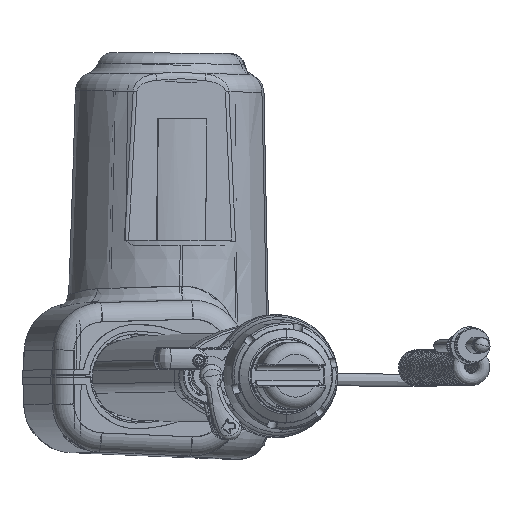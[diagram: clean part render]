
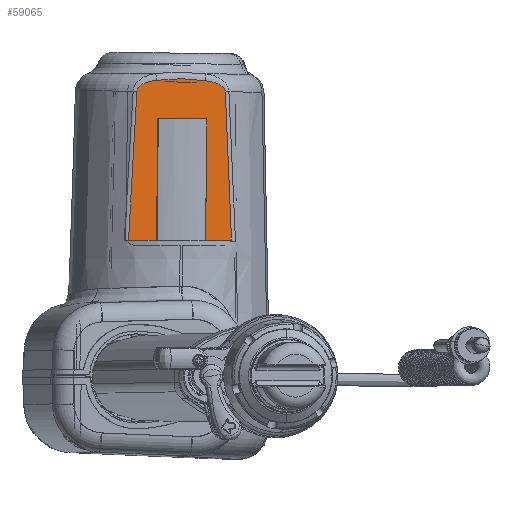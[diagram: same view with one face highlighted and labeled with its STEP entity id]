
A CAD part, top view. The second image highlights one B-rep face of the part: STEP entity #59065.
In plain terms, the highlighted planar face has unit normal (0.116, 0, 0.993).
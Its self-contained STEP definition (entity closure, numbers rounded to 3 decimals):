
#51850=CARTESIAN_POINT('',(15.492,50.408,33.53));
#51851=CARTESIAN_POINT('',(17.264,50.204,33.323));
#51852=CARTESIAN_POINT('',(19.884,49.698,33.018));
#51853=CARTESIAN_POINT('',(22.778,47.949,32.682));
#51854=CARTESIAN_POINT('',(23.565,46.514,32.59));
#51855=CARTESIAN_POINT('',(23.599,45.759,32.586));
#51857=CARTESIAN_POINT('',(23.599,45.759,32.586));
#51858=CARTESIAN_POINT('',(24.505,25.378,32.487));
#51859=CARTESIAN_POINT('',(25.343,4.993,32.395));
#51860=CARTESIAN_POINT('',(26.139,-15.393,
32.309));
#51862=DIRECTION('',(-0.993,0.007,0.116));
#51863=VECTOR('',#51862,14.289);
#51864=CARTESIAN_POINT('',(26.139,-15.393,
32.309));
#51865=LINE('',#51864,#51863);
#51866=DIRECTION('',(0.007,1.,-0.001));
#51867=VECTOR('',#51866,50.);
#51868=CARTESIAN_POINT('',(11.946,-15.286,
33.962));
#51869=LINE('',#51868,#51867);
#51870=CARTESIAN_POINT('',(-16.152,-15.075,
37.236));
#51871=CARTESIAN_POINT('',(-15.055,5.297,
37.102));
#51872=CARTESIAN_POINT('',(-13.915,25.667,
36.964));
#51873=CARTESIAN_POINT('',(-12.709,46.032,
36.817));
#51875=CARTESIAN_POINT('',(-12.709,46.032,
36.817));
#51876=CARTESIAN_POINT('',(-12.664,46.787,
36.812));
#51877=CARTESIAN_POINT('',(-11.856,48.209,
36.717));
#51878=CARTESIAN_POINT('',(-8.937,49.915,
36.376));
#51879=CARTESIAN_POINT('',(-6.31,50.381,
36.07));
#51880=CARTESIAN_POINT('',(-4.534,50.558,
35.863));
#51882=CARTESIAN_POINT('',(-4.534,50.558,
35.863));
#51883=CARTESIAN_POINT('',(-1.166,50.895,
35.471));
#51884=CARTESIAN_POINT('',(5.487,51.578,34.695));
#51885=CARTESIAN_POINT('',(12.13,50.795,33.921));
#51886=CARTESIAN_POINT('',(15.492,50.408,33.53));
#51932=DIRECTION('',(-0.993,0.007,0.116));
#51933=VECTOR('',#51932,14.289);
#51934=CARTESIAN_POINT('',(-1.959,-15.182,
35.583));
#51935=LINE('',#51934,#51933);
#51964=DIRECTION('',(-0.993,0.007,0.116));
#51965=VECTOR('',#51964,2.);
#51966=CARTESIAN_POINT('',(0.397,34.802,
35.293));
#51967=LINE('',#51966,#51965);
#51968=DIRECTION('',(-0.993,0.007,0.116));
#51969=VECTOR('',#51968,2.);
#51970=CARTESIAN_POINT('',(12.316,34.713,33.905));
#51971=LINE('',#51970,#51969);
#51997=DIRECTION('',(-0.007,-1.,0.001));
#51998=VECTOR('',#51997,50.);
#51999=CARTESIAN_POINT('',(-1.59,34.817,
35.525));
#52000=LINE('',#51999,#51998);
#52021=DIRECTION('',(0.007,1.,-0.001));
#52022=VECTOR('',#52021,50.);
#52023=CARTESIAN_POINT('',(0.027,-15.196,
35.351));
#52024=LINE('',#52023,#52022);
#52029=DIRECTION('',(-0.993,0.007,0.116));
#52030=VECTOR('',#52029,10.);
#52031=CARTESIAN_POINT('',(9.96,-15.271,
34.194));
#52032=LINE('',#52031,#52030);
#52041=DIRECTION('',(-0.007,-1.,0.001));
#52042=VECTOR('',#52041,50.);
#52043=CARTESIAN_POINT('',(10.329,34.727,34.136));
#52044=LINE('',#52043,#52042);
#57221=CARTESIAN_POINT('',(11.946,-15.286,
33.962));
#57223=VERTEX_POINT('',#57221);
#57224=CARTESIAN_POINT('',(26.139,-15.393,
32.309));
#57225=VERTEX_POINT('',#57224);
#57228=CARTESIAN_POINT('',(12.316,34.713,33.905));
#57229=VERTEX_POINT('',#57228);
#57232=VERTEX_POINT('',#51850);
#57233=VERTEX_POINT('',#51855);
#57234=VERTEX_POINT('',#51882);
#57235=VERTEX_POINT('',#51875);
#57236=VERTEX_POINT('',#51870);
#57237=CARTESIAN_POINT('',(-1.959,-15.182,
35.583));
#57238=VERTEX_POINT('',#57237);
#57239=CARTESIAN_POINT('',(-1.59,34.817,
35.525));
#57240=VERTEX_POINT('',#57239);
#57241=CARTESIAN_POINT('',(0.397,34.802,
35.293));
#57242=VERTEX_POINT('',#57241);
#57243=CARTESIAN_POINT('',(0.027,-15.196,
35.351));
#57244=VERTEX_POINT('',#57243);
#57245=CARTESIAN_POINT('',(9.96,-15.271,
34.194));
#57246=VERTEX_POINT('',#57245);
#57247=CARTESIAN_POINT('',(10.329,34.727,34.136));
#57248=VERTEX_POINT('',#57247);
#59032=CARTESIAN_POINT('',(5.239,17.992,34.734));
#59033=DIRECTION('',(0.116,0.,0.993));
#59034=DIRECTION('',(-0.993,0.007,0.116));
#59035=AXIS2_PLACEMENT_3D('',#59032,#59033,#59034);
#59036=PLANE('',#59035);
#59038=ORIENTED_EDGE('',*,*,#59037,.T.);
#59040=ORIENTED_EDGE('',*,*,#59039,.T.);
#59041=ORIENTED_EDGE('',*,*,#59005,.T.);
#59042=ORIENTED_EDGE('',*,*,#59022,.T.);
#59044=ORIENTED_EDGE('',*,*,#59043,.T.);
#59046=ORIENTED_EDGE('',*,*,#59045,.T.);
#59048=ORIENTED_EDGE('',*,*,#59047,.T.);
#59050=ORIENTED_EDGE('',*,*,#59049,.T.);
#59052=ORIENTED_EDGE('',*,*,#59051,.T.);
#59054=ORIENTED_EDGE('',*,*,#59053,.T.);
#59056=ORIENTED_EDGE('',*,*,#59055,.T.);
#59058=ORIENTED_EDGE('',*,*,#59057,.T.);
#59060=ORIENTED_EDGE('',*,*,#59059,.T.);
#59062=ORIENTED_EDGE('',*,*,#59061,.T.);
#59063=EDGE_LOOP('',(#59038,#59040,#59041,#59042,#59044,#59046,#59048,#59050,
#59052,#59054,#59056,#59058,#59060,#59062));
#59064=FACE_OUTER_BOUND('',#59063,.F.);
#59065=ADVANCED_FACE('',(#59064),#59036,.T.);
#51856=B_SPLINE_CURVE_WITH_KNOTS('',3,(#51850,#51851,#51852,#51853,#51854,
#51855),.UNSPECIFIED.,.F.,.F.,(4,1,1,4),(0.,0.5,0.75,1.),.UNSPECIFIED.);
#51861=B_SPLINE_CURVE_WITH_KNOTS('',3,(#51857,#51858,#51859,#51860),
.UNSPECIFIED.,.F.,.F.,(4,4),(0.,1.),.UNSPECIFIED.);
#51874=B_SPLINE_CURVE_WITH_KNOTS('',3,(#51870,#51871,#51872,#51873),
.UNSPECIFIED.,.F.,.F.,(4,4),(0.,1.),.UNSPECIFIED.);
#51881=B_SPLINE_CURVE_WITH_KNOTS('',3,(#51875,#51876,#51877,#51878,#51879,
#51880),.UNSPECIFIED.,.F.,.F.,(4,1,1,4),(0.,0.25,0.5,1.),.UNSPECIFIED.);
#51887=B_SPLINE_CURVE_WITH_KNOTS('',3,(#51882,#51883,#51884,#51885,#51886),
.UNSPECIFIED.,.F.,.F.,(4,1,4),(0.,0.5,1.),.UNSPECIFIED.);
#59005=EDGE_CURVE('',#57225,#57223,#51865,.T.);
#59022=EDGE_CURVE('',#57223,#57229,#51869,.T.);
#59037=EDGE_CURVE('',#57232,#57233,#51856,.T.);
#59039=EDGE_CURVE('',#57233,#57225,#51861,.T.);
#59043=EDGE_CURVE('',#57229,#57248,#51971,.T.);
#59045=EDGE_CURVE('',#57248,#57246,#52044,.T.);
#59047=EDGE_CURVE('',#57246,#57244,#52032,.T.);
#59049=EDGE_CURVE('',#57244,#57242,#52024,.T.);
#59051=EDGE_CURVE('',#57242,#57240,#51967,.T.);
#59053=EDGE_CURVE('',#57240,#57238,#52000,.T.);
#59055=EDGE_CURVE('',#57238,#57236,#51935,.T.);
#59057=EDGE_CURVE('',#57236,#57235,#51874,.T.);
#59059=EDGE_CURVE('',#57235,#57234,#51881,.T.);
#59061=EDGE_CURVE('',#57234,#57232,#51887,.T.);
